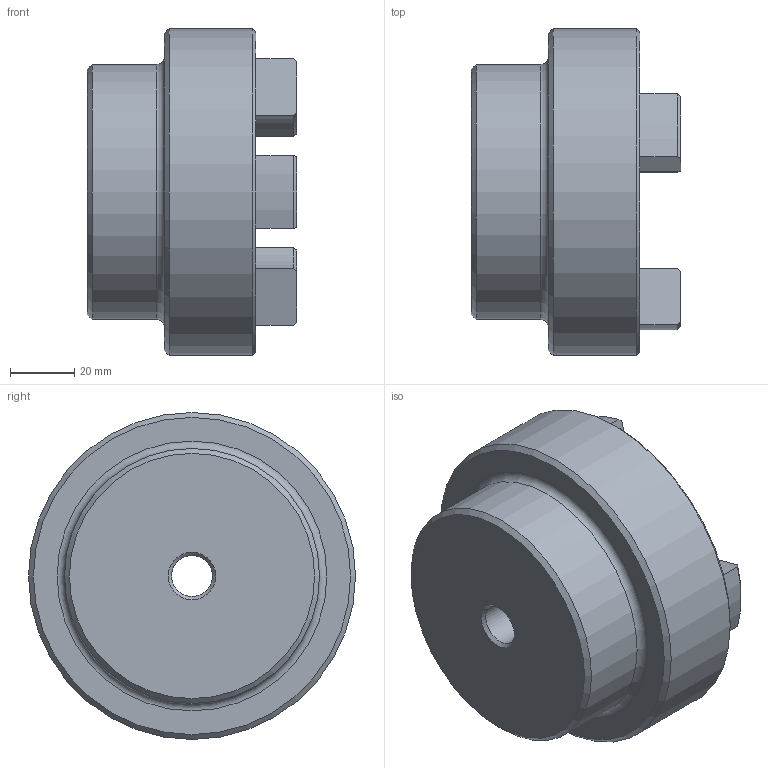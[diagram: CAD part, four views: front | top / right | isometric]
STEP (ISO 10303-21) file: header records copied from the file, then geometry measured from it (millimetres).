
FILE_DESCRIPTION (( 'STEP AP203' ), '1' );
FILE_NAME ('RC4.step', '2024-07-24T17:48:49', ( 'Adlan' ), ( '' ), 'SwSTEP 2.0', 'SolidWorks 2013', '' );
FILE_SCHEMA (( 'CONFIG_CONTROL_DESIGN' ));
Length unit declared in the file: inch
Products named in the file (1): RC4
Bounding box: 65.02 x 101.6 x 101.6 mm (x, y, z)
Volume: 276107.3 mm3; surface area: 39520.9 mm2
Topology: 1 solids, 1 shells, 60 faces, 146 edges, 90 vertices
Faces by surface type: cylinder 24, plane 13, torus 13, cone 10
Full cylindrical faces by diameter (mm): 12.708 x1, 79.248 x1, 101.6 x1
Entity records: 1841 total; most frequent: CARTESIAN_POINT 341, DIRECTION 324, ORIENTED_EDGE 274, EDGE_CURVE 137, AXIS2_PLACEMENT_3D 132, VERTEX_POINT 89, EDGE_LOOP 72, CIRCLE 71
